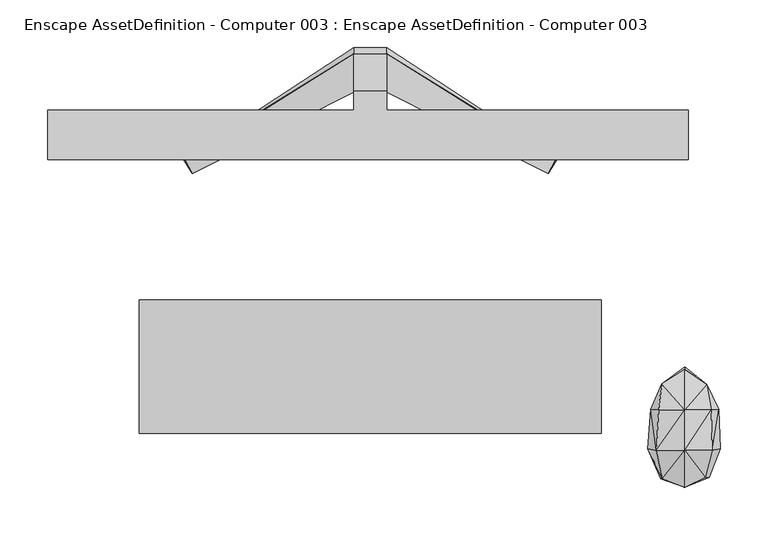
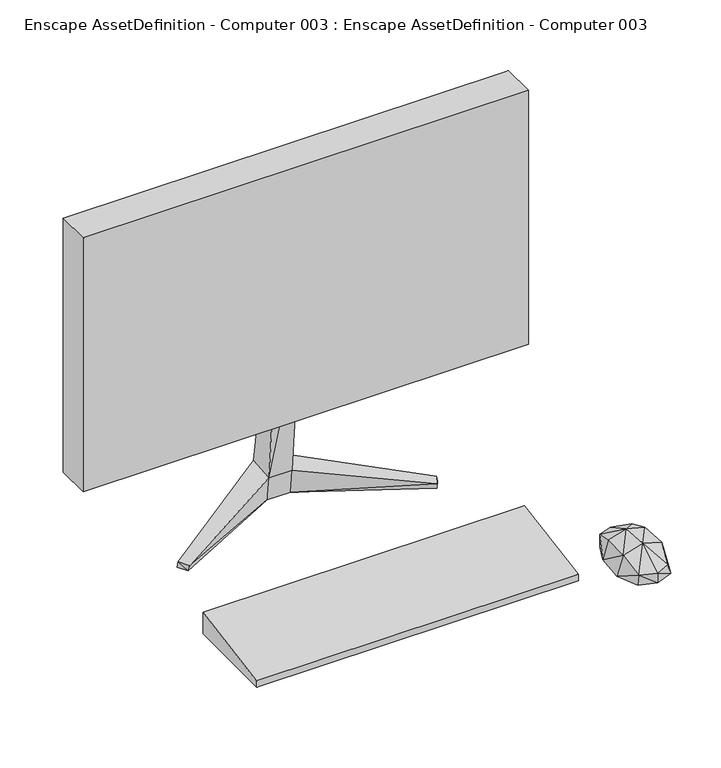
"""IFC4 building model written with IfcOpenShell, lengths in millimetres: geographic element geometry, Enscape AssetDefinition - Computer 003 : Enscape AssetDefinition - Computer 003."""

from ifc_helpers import new_model, si_unit, origin, place, context, project, spatial, triangles, source, transform, mapped, element, save


def enscape_assetdefinition_computer_003_enscape_assetdefinition_33cd5614(model_context):
    return source(origin(), model_context, "Body", "Tessellation", [
        triangles([(-338.1716912, 38.3000741, 575.0920046), (-338.1716912, 38.3001422, 170.3935965), (-338.1716912, -13.2326657, 170.3935965), (333.1434371, 38.3000695, 575.0920046), (333.1434371, -13.2327293, 575.0920046), (333.1434371, 38.3001377, 170.3935965), (333.1434371, -13.2326657, 170.3935965), (-338.1716912, -13.2327293, 575.0920046), (242.4426507, -300.6675851, 0.0), (-242.3718701, -300.6675851, 0.0), (-242.3718701, -300.6675851, 9.8504309), (-242.3718701, -160.7831911, 34.7740697), (242.4426507, -160.7831911, 0.0), (-242.3718701, -160.7831911, 0.0), (242.4426507, -160.7831911, 34.7740697), (242.4426507, -300.6675851, 9.8504309), (329.5755589, -357.1807054, -3.94e-05), (304.664198, -348.5509995, -3.94e-05), (329.5755589, -357.180778, 15.2751362), (306.3190933, -348.5510359, 15.2751362), (329.5755589, -318.4857562, 39.4488866), (294.0925685, -275.3478551, 0.0), (291.0714775, -316.9714954, 0.0), (299.9167407, -318.4857562, 31.3887999), (329.5755589, -299.1631711, 0.0), (302.2414171, -275.7558608, 29.3485334), (305.4094468, -248.4856866, 20.3095797), (357.2628951, -275.7558608, 29.3485334), (352.9854672, -249.052785, 20.3095797), (329.5755589, -275.7558608, 37.4086564), (305.4094468, -248.4857048, 0.0), (329.5755589, -233.6667147, 13.934082), (329.5755589, -231.1056973, 0.0), (352.9854672, -249.052785, 0.0), (365.5977425, -275.3478551, 0.0), (367.004706, -316.9714954, 0.0), (358.3454962, -318.4857562, 31.3887999), (351.1647208, -346.5038861, 15.2751362), (355.3977473, -346.5038135, -3.94e-05), (-17.3660389, 97.8319009, 40.8153775), (-17.3660912, 36.7080133, 293.6909215), (17.3660503, 57.1518758, 37.4825549), (-17.3660446, 57.1518758, 37.4825549), (17.3660423, 61.481944, 0.0), (17.3660968, 36.7080133, 293.6909215), (17.3660912, 37.238025, 269.7091913), (17.3660923, 58.2106502, 293.6909215), (-17.3660866, 58.2106502, 293.6909215), (17.3660389, 104.0212124, 0.0), (17.3660446, 97.8319009, 40.8153775), (196.1022017, -12.9414827, 0.0), (194.565722, -13.1167026, 8.905791), (187.575015, -26.5461199, 0.0), (186.500117, -28.2610407, 8.6716415), (-196.1022017, -12.9414827, 0.0), (-17.3660332, 104.0212124, 0.0), (-194.565722, -13.1167026, 8.905791), (-186.500117, -28.2610407, 8.6716415), (-17.3660367, 61.481944, 0.0), (-187.575015, -26.5461199, 0.0)], [[59, 58, 60], [57, 60, 58], [57, 55, 60], [59, 56, 44], [56, 60, 55], [56, 59, 60], [40, 55, 57], [40, 56, 55], [56, 49, 44], [56, 40, 49], [49, 51, 53], [49, 53, 44], [44, 53, 54], [52, 54, 53], [52, 53, 51], [50, 52, 51], [50, 51, 49], [40, 50, 49], [40, 47, 50], [42, 54, 52], [44, 54, 42], [42, 52, 50], [50, 47, 46], [46, 42, 50], [46, 47, 45], [48, 45, 47], [40, 48, 47], [46, 45, 41], [48, 41, 45], [48, 40, 41], [43, 59, 44], [43, 57, 58], [43, 42, 46], [42, 43, 44], [59, 43, 58], [41, 43, 46], [40, 43, 41], [43, 40, 57], [39, 38, 19], [19, 38, 21], [38, 37, 21], [36, 37, 38], [39, 36, 38], [36, 39, 25], [36, 35, 37], [25, 35, 36], [34, 35, 25], [33, 34, 25], [35, 28, 37], [37, 28, 21], [35, 34, 28], [34, 29, 28], [34, 33, 29], [33, 32, 29], [31, 33, 25], [33, 31, 32], [31, 27, 32], [28, 30, 21], [29, 32, 30], [32, 27, 30], [28, 29, 30], [27, 26, 30], [22, 26, 27], [22, 31, 25], [31, 22, 27], [21, 30, 24], [30, 26, 24], [22, 24, 26], [22, 23, 24], [23, 22, 25], [20, 19, 21], [23, 20, 24], [20, 21, 24], [17, 19, 20], [39, 17, 25], [17, 39, 19], [23, 18, 20], [18, 23, 25], [18, 17, 20], [18, 25, 17], [14, 11, 12], [11, 15, 12], [11, 16, 15], [9, 15, 16], [13, 14, 12], [9, 13, 15], [13, 12, 15], [14, 10, 11], [10, 9, 16], [10, 14, 13], [10, 16, 11], [10, 13, 9], [1, 3, 8], [3, 5, 8], [3, 7, 5], [6, 5, 7], [4, 1, 8], [6, 4, 5], [4, 8, 5], [1, 2, 3], [2, 6, 7], [2, 1, 4], [2, 7, 3], [2, 4, 6]]),
    ])


if __name__ == "__main__":
    model = new_model("IFC4")
    model_context = context("Model", 3, world=origin())
    ifc_project = project(units=[si_unit("LENGTHUNIT", "METRE", prefix="MILLI")], contexts=[model_context])
    site = spatial("IfcSite", under=ifc_project)
    building = spatial("IfcBuilding", under=site)
    placement = place(None, origin())
    enscape_assetdefinition_computer_003_enscape_assetdefinition_shape = enscape_assetdefinition_computer_003_enscape_assetdefinition_33cd5614(model_context)
    element("IfcGeographicElement", 1, ObjectType="Enscape AssetDefinition - Computer 003 : Enscape AssetDefinition - Computer 003", at=placement, inside=building, context=model_context, shape_type="MappedRepresentation", body=[
        mapped(enscape_assetdefinition_computer_003_enscape_assetdefinition_shape, transform((0.0, 0.0, 0.0), x_axis=(1.0, 0.0, 0.0), y_axis=(0.0, 1.0, 0.0), z_axis=(0.0, 0.0, 1.0))),
    ])
    save(model, "model.ifc")
